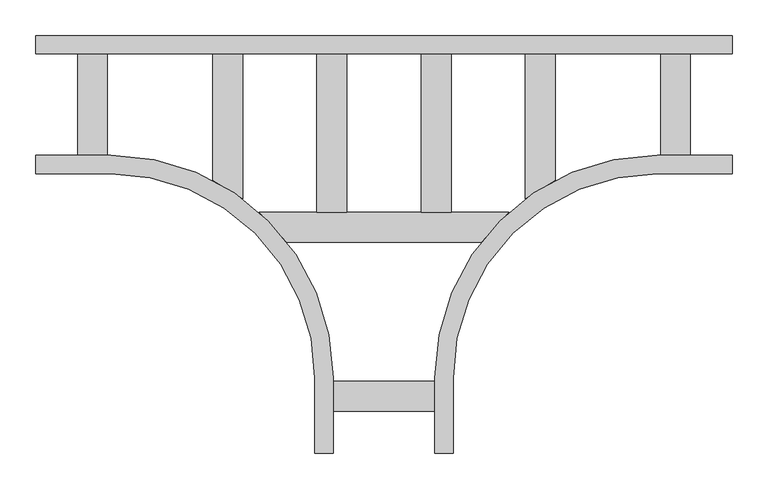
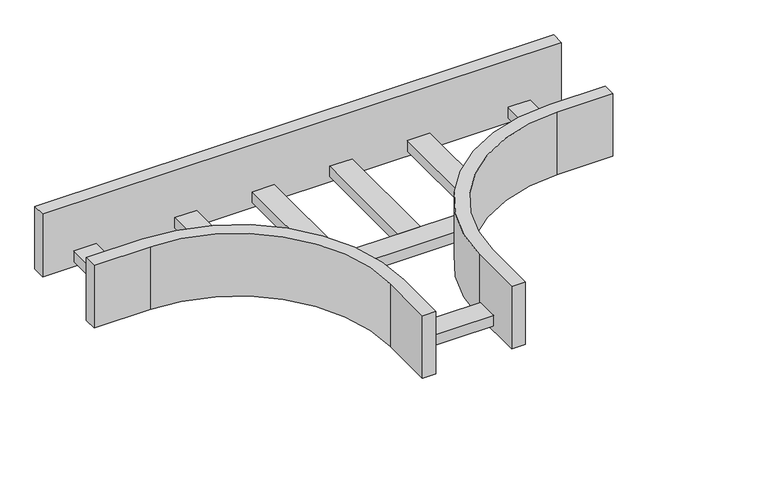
"""IFC4 building model written with IfcOpenShell, lengths in millimetres: cable carrier fitting geometry, Legrand_CableLadder_Swifts_Sapphire_Tee-300R-13 : Hot Dip Galvanised (after manufacture)."""

from ifc_helpers import new_model, si_unit, point, frame, frame_2d, origin, place, context, project, spatial, polyline, circle_curve, trimmed, segment, composite_curve, outline, extrude, source, transform, mapped, element, save


def cable_carrier_fitting_29c7f716(model_context):
    return source(origin(), model_context, "Body", "SweptSolid", [
        extrude(outline(composite_curve([segment(polyline([(-240.875, 71.5), (-198.875, 71.5), (-198.875, -132.3598019)]), True, "CONTINUOUS"), segment(trimmed(circle_curve(frame_2d((-384.25, -384.25)), 312.75), [point((-198.875, -132.3598019))], [point((-240.875, -106.3000551))], True, "CARTESIAN"), True, "CONTINUOUS"), segment(polyline([(-240.875, -106.3000551), (-240.875, 71.5)]), True, "CONTINUOUS")], self_intersect=False)), frame((0.0, 0.0, -52.5), z_axis=(0.0, 0.0, 1.0), x_axis=(1.0, 0.0, 0.0)), (0.0, 0.0, 1.0), 21.0),
        extrude(outline(composite_curve([segment(polyline([(198.875, 71.5), (240.875, 71.5), (240.875, -106.3000551)]), True, "CONTINUOUS"), segment(trimmed(circle_curve(frame_2d((384.25, -384.25)), 312.75), [point((240.875, -106.3000551))], [point((198.875, -132.3598019))], True, "CARTESIAN"), True, "CONTINUOUS"), segment(polyline([(198.875, -132.3598019), (198.875, 71.5)]), True, "CONTINUOUS")], self_intersect=False)), frame((0.0, 0.0, -52.5), z_axis=(0.0, 0.0, 1.0), x_axis=(1.0, 0.0, 0.0)), (0.0, 0.0, 1.0), 21.0),
        extrude(outline(polyline([(-94.2916667, -151.5), (-94.2916667, 71.5), (-52.2916667, 71.5), (-52.2916667, -151.5), (-94.2916667, -151.5)])), frame((0.0, 0.0, -52.5), z_axis=(0.0, 0.0, 1.0), x_axis=(1.0, 0.0, 0.0)), (0.0, 0.0, 1.0), 21.0),
        extrude(outline(polyline([(52.2916667, -151.5), (52.2916667, 71.5), (94.2916667, 71.5), (94.2916667, -151.5), (52.2916667, -151.5)])), frame((0.0, 0.0, -52.5), z_axis=(0.0, 0.0, 1.0), x_axis=(1.0, 0.0, 0.0)), (0.0, 0.0, 1.0), 21.0),
        extrude(outline(polyline([(71.5, -388.75), (71.5, -430.75), (-71.5, -430.75), (-71.5, -388.75), (71.5, -388.75)])), frame((0.0, 0.0, -52.5), z_axis=(0.0, 0.0, 1.0), x_axis=(1.0, 0.0, 0.0)), (0.0, 0.0, 1.0), 21.0),
        extrude(outline(polyline([(-430.75, -71.5), (-430.75, 71.5), (-388.75, 71.5), (-388.75, -71.5), (-430.75, -71.5)])), frame((0.0, 0.0, -52.5), z_axis=(0.0, 0.0, 1.0), x_axis=(1.0, 0.0, 0.0)), (0.0, 0.0, 1.0), 21.0),
        extrude(outline(polyline([(430.75, -71.5), (388.75, -71.5), (388.75, 71.5), (430.75, 71.5), (430.75, -71.5)])), frame((0.0, 0.0, -52.5), z_axis=(0.0, 0.0, 1.0), x_axis=(1.0, 0.0, 0.0)), (0.0, 0.0, 1.0), 21.0),
        extrude(outline(composite_curve([segment(polyline([(136.4052906, -193.5), (-136.4052906, -193.5)]), True, "CONTINUOUS"), segment(trimmed(circle_curve(frame_2d((-384.25, -384.25)), 312.75), [point((-136.4052906, -193.5))], [point((-175.3481092, -151.5))], True, "CARTESIAN"), True, "CONTINUOUS"), segment(polyline([(-175.3481092, -151.5), (175.3481092, -151.5)]), True, "CONTINUOUS"), segment(trimmed(circle_curve(frame_2d((384.25, -384.25)), 312.75), [point((175.3481092, -151.5))], [point((136.4052906, -193.5))], True, "CARTESIAN"), True, "CONTINUOUS")], self_intersect=False)), frame((0.0, 0.0, -52.5), z_axis=(0.0, 0.0, 1.0), x_axis=(1.0, 0.0, 0.0)), (0.0, 0.0, 1.0), 21.0),
        extrude(outline(composite_curve([segment(polyline([(489.75, -71.5), (489.75, -97.0), (384.25, -97.0)]), True, "CONTINUOUS"), segment(trimmed(circle_curve(frame_2d((384.25, -384.25)), 287.25), [point((384.25, -97.0))], [point((97.0, -384.25))], True, "CARTESIAN"), True, "CONTINUOUS"), segment(polyline([(97.0, -384.25), (97.0, -489.75), (71.5, -489.75), (71.5, -384.25)]), True, "CONTINUOUS"), segment(trimmed(circle_curve(frame_2d((384.25, -384.25)), 312.75), [point((71.5, -384.25))], [point((384.25, -71.5))], False, "CARTESIAN"), True, "CONTINUOUS"), segment(polyline([(384.25, -71.5), (489.75, -71.5)]), True, "CONTINUOUS")], self_intersect=False)), frame((0.0, 0.0, -62.5), z_axis=(0.0, 0.0, 1.0), x_axis=(1.0, 0.0, 0.0)), (0.0, 0.0, 1.0), 125.0),
        extrude(outline(composite_curve([segment(polyline([(-489.75, -97.0), (-489.75, -71.5), (-384.25, -71.5)]), True, "CONTINUOUS"), segment(trimmed(circle_curve(frame_2d((-384.25, -384.25)), 312.75), [point((-384.25, -71.5))], [point((-71.5, -384.25))], False, "CARTESIAN"), True, "CONTINUOUS"), segment(polyline([(-71.5, -384.25), (-71.5, -489.75), (-97.0, -489.75), (-97.0, -384.25)]), True, "CONTINUOUS"), segment(trimmed(circle_curve(frame_2d((-384.25, -384.25)), 287.25), [point((-97.0, -384.25))], [point((-384.25, -97.0))], True, "CARTESIAN"), True, "CONTINUOUS"), segment(polyline([(-384.25, -97.0), (-489.75, -97.0)]), True, "CONTINUOUS")], self_intersect=False)), frame((0.0, 0.0, -62.5), z_axis=(0.0, 0.0, 1.0), x_axis=(1.0, 0.0, 0.0)), (0.0, 0.0, 1.0), 125.0),
        extrude(outline(polyline([(-489.75, 71.5), (-489.75, 97.0), (489.75, 97.0), (489.75, 71.5), (-489.75, 71.5)])), frame((0.0, 0.0, -62.5), z_axis=(0.0, 0.0, 1.0), x_axis=(1.0, 0.0, 0.0)), (0.0, 0.0, 1.0), 125.0),
    ])


if __name__ == "__main__":
    model = new_model("IFC4")
    model_context = context("Model", 3, world=origin())
    ifc_project = project(units=[si_unit("LENGTHUNIT", "METRE", prefix="MILLI")], contexts=[model_context])
    site = spatial("IfcSite", under=ifc_project)
    building = spatial("IfcBuilding", under=site)
    placement = place(None, origin())
    cable_carrier_fitting_shape = cable_carrier_fitting_29c7f716(model_context)
    element("IfcCableCarrierFitting", 1, ObjectType="Legrand_CableLadder_Swifts_Sapphire_Tee-300R-13 : Hot Dip Galvanised (after manufacture)", at=placement, inside=building, context=model_context, shape_type="MappedRepresentation", body=[
        mapped(cable_carrier_fitting_shape, transform((0.0, 0.0, 0.0), x_axis=(1.0, 0.0, 0.0), y_axis=(0.0, 1.0, 0.0), z_axis=(0.0, 0.0, 1.0))),
    ])
    save(model, "model.ifc")
